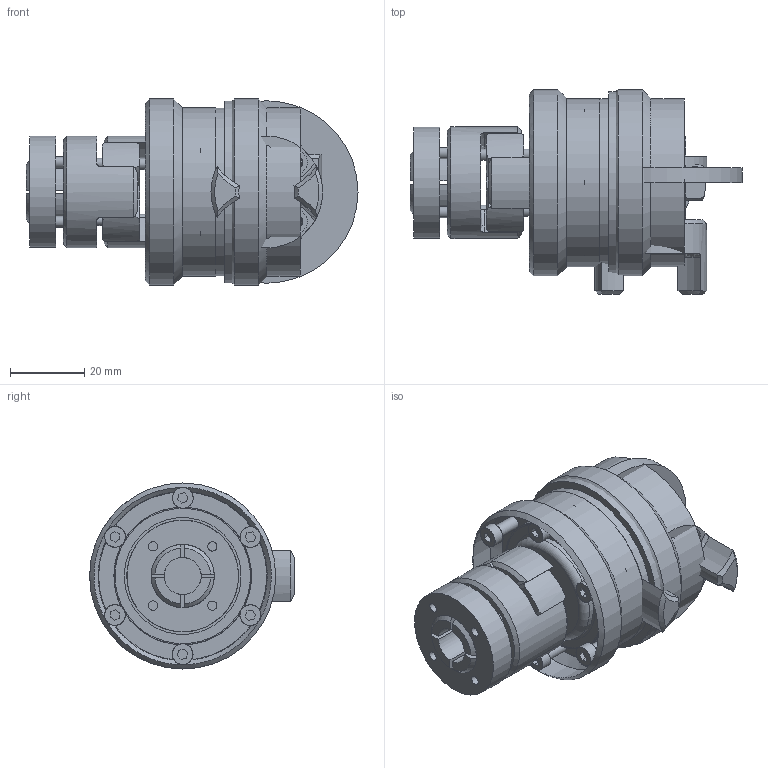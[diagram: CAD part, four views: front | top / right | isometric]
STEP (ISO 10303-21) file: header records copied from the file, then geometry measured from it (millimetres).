
FILE_DESCRIPTION( ( 'Unknown' ), '1' );
FILE_NAME( 'C:/Dokumente und Einstellungen/Sven/Desktop/hp kbk/E-AP/KBK EAP 14-63.stp', 'Unknown', ( 'Unknown' ), ( 'Unknown' ), 'XStep 1.0', 'Unknown', ' ' );
FILE_SCHEMA( ( 'automotive_design' ) );
Length unit declared in the file: millimetre
Products named in the file (17): Assem1; Assem2; Assem3; ball_bearing_-_61904_0_01_0; ball_bearing_-_61904_0_02_0; ball_bearing_-_61904_0_03_0; Zylinderschraube DIN 912_0; L-P-10 Grundteil_0; Stellring 10_0; Druckring 10_0; a_20_0; Flansch L-LL10_0; Elastomerflansch EK 10_0; Zahnkranz_14_Standard_0; KBE 3 - 14_Nabe; KBE3-14_Druckring_0; ISO EN DIN 4762_M3x12
Bounding box: 89.2 x 55 x 50 mm (x, y, z)
Volume: 128823.7 mm3; surface area: 86511.5 mm2
Topology: 40 solids, 40 shells, 760 faces, 1680 edges, 1060 vertices
Faces by surface type: plane 308, cylinder 260, cone 147, torus 45
Full cylindrical faces by diameter (mm): 2 x4, 2.459 x16, 2.5 x12, 2.98 x5, 3 x26, 3.4 x12, 3.5 x8, 5 x5, 5.5 x8, 5.6 x12, 6 x8, 10 x6, 14 x2, 15 x2, 19 x2, 20 x7, 24 x4, 25 x2, 25.6 x6, 29 x2, 29.993 x2, 30 x6, 31.4 x6, 37 x7, 38 x2, 40 x2, 45 x2, 45.2 x2, 49 x2, 50 x2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
Entity records: 8698 total; most frequent: CARTESIAN_POINT 1712, DIRECTION 1430, ORIENTED_EDGE 1088, AXIS2_PLACEMENT_3D 648, EDGE_CURVE 544, EDGE_LOOP 474, VERTEX_POINT 398, FACE_OUTER_BOUND 381
